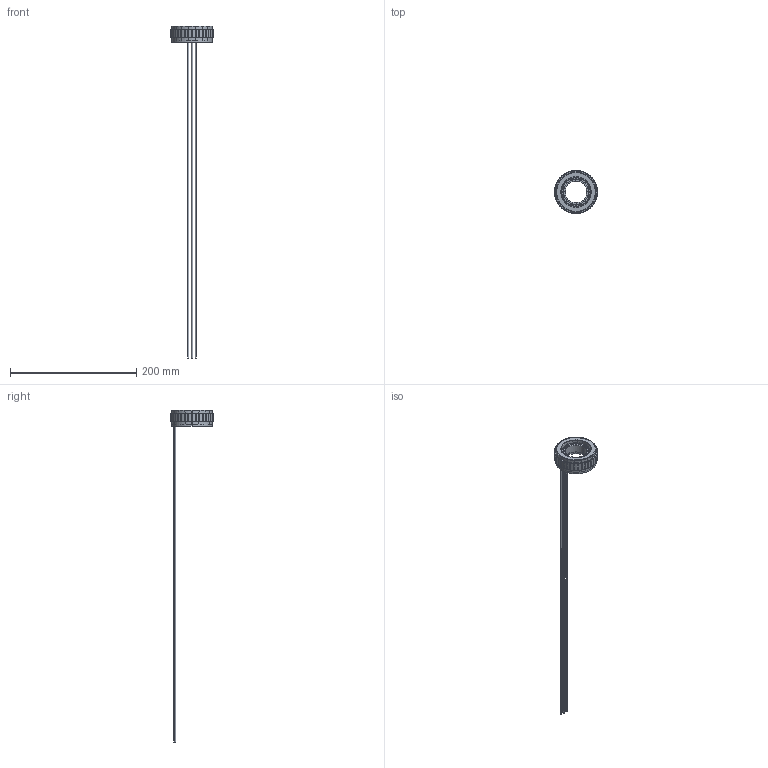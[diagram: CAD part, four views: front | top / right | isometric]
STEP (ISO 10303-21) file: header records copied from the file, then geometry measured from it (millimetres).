
FILE_DESCRIPTION (( 'STEP AP203' ), '1' );
FILE_NAME ('307090724SS 无框力矩电机（FMC06813-0025-3034N-8DS00）-V1.0.STEP', '2024-11-01T07:53:51', ( '' ), ( '' ), 'SwSTEP 2.0', 'SolidWorks 2023', '' );
FILE_SCHEMA (( 'CONFIG_CONTROL_DESIGN' ));
Length unit declared in the file: millimetre
Products named in the file (28): 10108010275 定子铁芯（68L13-18Z(B35A300)含骨架）; 复件 10212010005 漆包线（QZY-2-180  0.53 GB6109.5-88）^207012526 定子总成（68L13-1X0.53-31匝-2-16P星形）-V1.0; 10108040235 转子铁芯（68L14-16P（40Cr电镀））-V1.0; 复件 10212020110 电源线（AWM1332-16AWG 蓝）^207012526 定子总成（68L13-1X0.53-31匝-2-16P星形）-V1.0; 307090724SS 无框力矩电机（FMC06813-0025-3034N-8DS00）-V1.0; 复件 10212020112 电源线（AWM1332-16AWG 紫）^207012526 定子总成（68L13-1X0.53-31匝-2-16P星形）-V1.0; 10108060613 磁钢（68L14-16P-N45SH（S极）); 复件 10212020111 电源线（AWM1332-16AWG 棕）^207012526 定子总成（68L13-1X0.53-31匝-2-16P星形）-V1.0; 207012526 定子总成（68L13-1X0.53-31匝-2-16P星形）-V1.0; 10108060612 磁钢（68L14-16P-N45SH（N极）); 207042415 转子（FMC06813-0025-3034N-8DS00）-V1.0
Assembly tree (41 placements, depth 3):
  307090724SS 无框力矩电机（FMC06813-0025-3034N-8DS00）-V1.0
    207012526 定子总成（68L13-1X0.53-31匝-2-16P星形）-V1.0
      10108010275 定子铁芯（68L13-18Z(B35A300)含骨架）
      10108010275 定子铁芯（68L13-18Z(B35A300)含骨架）
      10108010275 定子铁芯（68L13-18Z(B35A300)含骨架）
      10108010275 定子铁芯（68L13-18Z(B35A300)含骨架）
      10108010275 定子铁芯（68L13-18Z(B35A300)含骨架）
      10108010275 定子铁芯（68L13-18Z(B35A300)含骨架）
      10108010275 定子铁芯（68L13-18Z(B35A300)含骨架）
      10108010275 定子铁芯（68L13-18Z(B35A300)含骨架）
      10108010275 定子铁芯（68L13-18Z(B35A300)含骨架）
      10108010275 定子铁芯（68L13-18Z(B35A300)含骨架）
      10108010275 定子铁芯（68L13-18Z(B35A300)含骨架）
      10108010275 定子铁芯（68L13-18Z(B35A300)含骨架）
      10108010275 定子铁芯（68L13-18Z(B35A300)含骨架）
      10108010275 定子铁芯（68L13-18Z(B35A300)含骨架）
      10108010275 定子铁芯（68L13-18Z(B35A300)含骨架）
      10108010275 定子铁芯（68L13-18Z(B35A300)含骨架）
      10108010275 定子铁芯（68L13-18Z(B35A300)含骨架）
      10108010275 定子铁芯（68L13-18Z(B35A300)含骨架）
      复件 10212010005 漆包线（QZY-2-180  0.53 GB6109.5-88）^207012526 定子总成（68L13-1X0.53-31匝-2-16P星形）-V1.0
      复件 10212020110 电源线（AWM1332-16AWG 蓝）^207012526 定子总成（68L13-1X0.53-31匝-2-16P星形）-V1.0
      复件 10212020111 电源线（AWM1332-16AWG 棕）^207012526 定子总成（68L13-1X0.53-31匝-2-16P星形）-V1.0
      复件 10212020112 电源线（AWM1332-16AWG 紫）^207012526 定子总成（68L13-1X0.53-31匝-2-16P星形）-V1.0
    207042415 转子（FMC06813-0025-3034N-8DS00）-V1.0
      10108040235 转子铁芯（68L14-16P（40Cr电镀））-V1.0
      10108060612 磁钢（68L14-16P-N45SH（N极）)  x8
      10108060613 磁钢（68L14-16P-N45SH（S极）)  x8
Bounding box: 67.98 x 67.98 x 526 mm (x, y, z)
Volume: 56645.4 mm3; surface area: 52418.6 mm2
Topology: 40 solids, 40 shells, 1908 faces, 5164 edges, 3368 vertices
Faces by surface type: plane 1124, bspline 368, cylinder 336, cone 80
Entity records: 46053 total; most frequent: CARTESIAN_POINT 10843, ORIENTED_EDGE 6800, DIRECTION 6542, EDGE_CURVE 3400, VECTOR 2242, LINE 2242, VERTEX_POINT 2192, AXIS2_PLACEMENT_3D 2150
